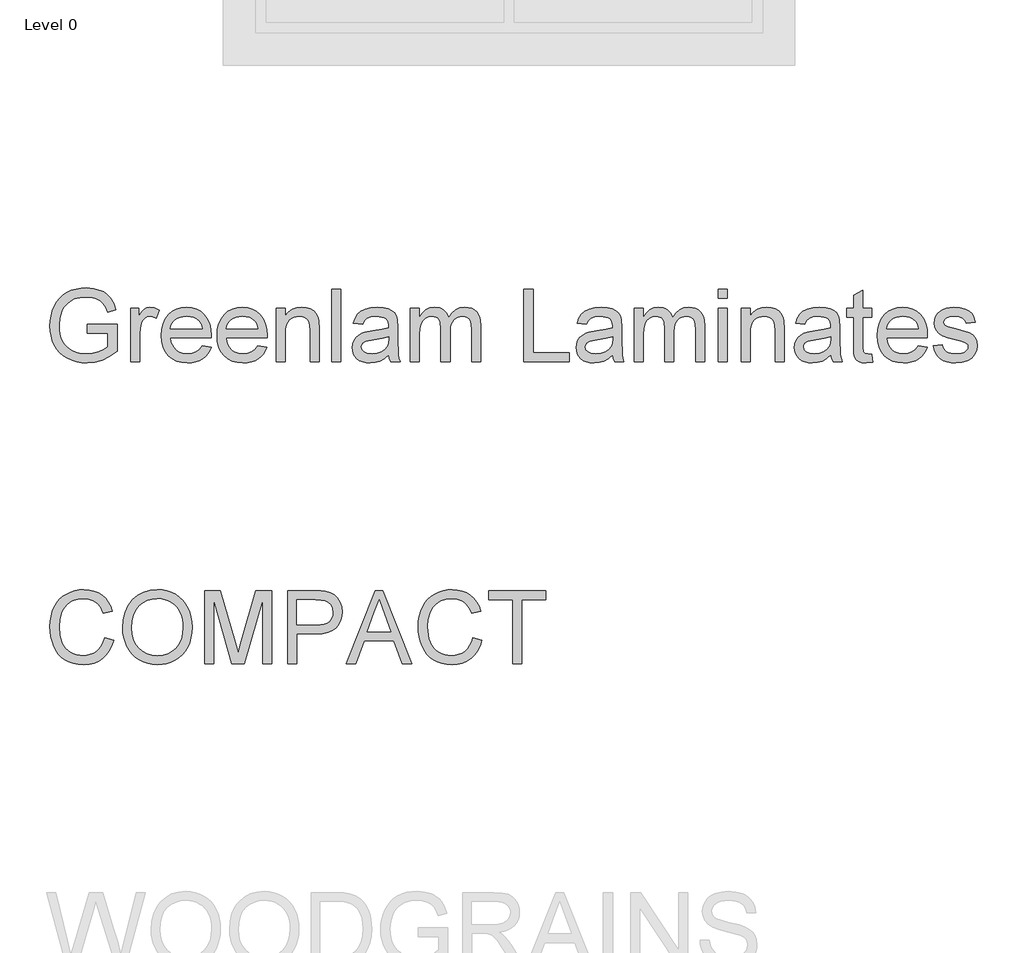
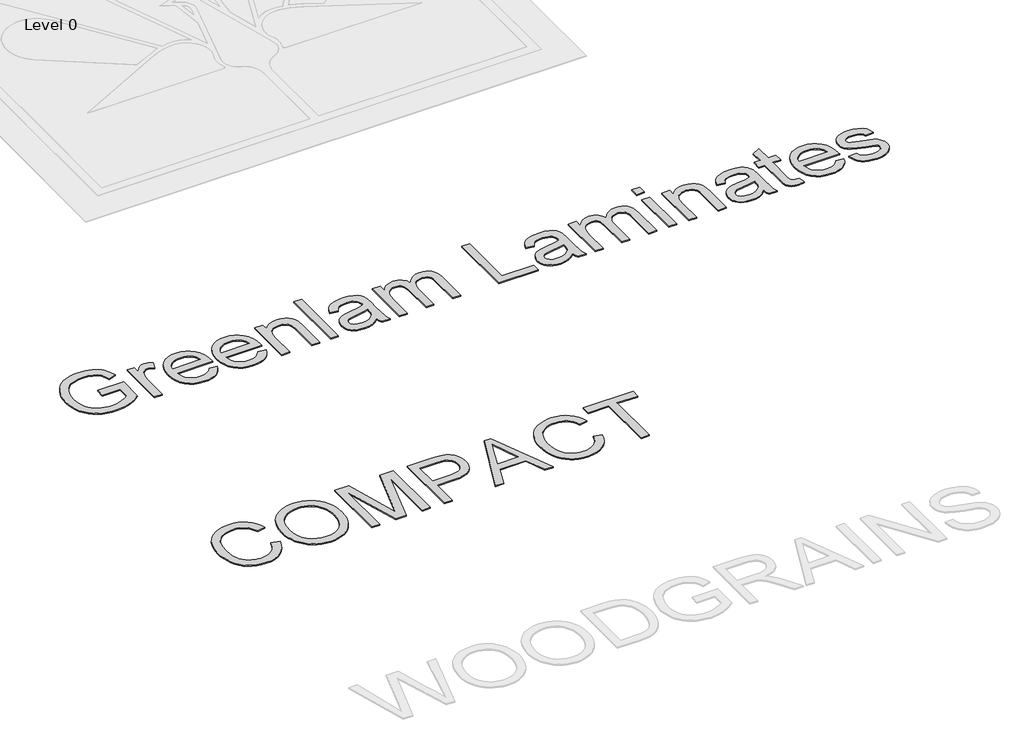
# One storey, part 16 of 16: 2 proxies.
"""IFC4 building model written with IfcOpenShell, lengths in millimetres."""

from ifc_helpers import new_model, si_unit, origin, origin_with_axes, place, context, project, spatial, polyline, outline, extrude, element, save

model = new_model("IFC4")

# Units and contexts
model_context = context("Model", 3, world=origin())
ifc_project = project(units=[si_unit("LENGTHUNIT", "METRE", prefix="MILLI")], contexts=[model_context])

# Site, building, storey
site = spatial("IfcSite", under=ifc_project)
building = spatial("IfcBuilding", under=site)
storey = spatial("IfcBuildingStorey", under=building, Name="Level 0", Elevation=0.0)

# Proxies
placement = place(None, origin())
element("IfcBuildingElementProxy", 1, Name="600mm Arial", ObjectType="600mm Arial", at=placement, inside=storey, context=model_context, shape_type="SweptSolid", body=[
    extrude(outline(polyline([(-10594.9298129, 2995.5724296), (-10594.9298129, 3070.9146622), (-10350.067557, 3070.9146622), (-10350.067557, 2845.6237284), (-10409.5724697, 2804.2370039), (-10470.9535806, 2774.5489269), (-10534.0637368, 2756.6698619), (-10598.7557857, 2750.7101736), (-10642.0325039, 2753.0784139), (-10683.2766741, 2760.183135), (-10722.4882962, 2772.0243367), (-10759.6673704, 2788.6020191), (-10793.6136815, 2809.6678618), (-10823.1270146, 2834.9735446), (-10848.2073696, 2864.5190673), (-10868.8547466, 2898.3044301), (-10884.9817735, 2935.2489794), (-10896.5010785, 2974.2720621), (-10903.4126615, 3015.373678), (-10905.7165225, 3058.5538272), (-10903.4218585, 3101.7385749), (-10896.5378667, 3143.4425975), (-10885.064547, 3183.6658952), (-10869.0018994, 3222.4084678), (-10848.6350324, 3257.9688612), (-10824.2490546, 3288.645621), (-10795.8439661, 3314.4387474), (-10763.4197667, 3335.3482403), (-10727.6800309, 3351.507457), (-10689.3283329, 3363.0497546), (-10648.3646727, 3369.9751331), (-10604.7890504, 3372.2835926), (-10542.7273578, 3366.9309096), (-10486.9196592, 3350.8728605), (-10462.0002525, 3339.1190308), (-10439.9227343, 3325.2682737), (-10420.6871045, 3309.3205892), (-10404.293363, 3291.2759773), (-10377.9346181, 3247.2588966), (-10358.749572, 3191.5799566), (-10428.2056927, 3172.0086345), (-10443.7119188, 3211.7214959), (-10462.5658711, 3241.6854844), (-10487.5082704, 3264.2734389), (-10521.2798375, 3281.8581982), (-10561.5445219, 3293.1705696), (-10605.9662728, 3296.94136), (-10657.9663928, 3292.876264), (-10702.4249319, 3280.6809758), (-10739.1763433, 3261.8822059), (-10768.0550799, 3238.0066644), (-10790.2199701, 3210.2867561), (-10806.8298422, 3179.9548856), (-10824.4881779, 3123.0803291), (-10830.3742899, 3061.6440359), (-10828.6038578, 3024.0235034), (-10823.2925615, 2989.5943472), (-10814.4404009, 2958.3565672), (-10802.0473762, 2930.3101636), (-10786.2744357, 2905.5609024), (-10767.2825277, 2884.2145496), (-10745.0716522, 2866.2711053), (-10719.6418093, 2851.7305695), (-10692.1840169, 2840.496373), (-10663.8892929, 2832.471947), (-10634.7576374, 2827.6572914), (-10604.7890504, 2826.0524062), (-10552.6049894, 2830.8900544), (-10501.7085154, 2845.4029992), (-10457.5074936, 2865.3973856), (-10425.4097896, 2886.679359), (-10425.4097896, 2995.5724296), (-10594.9298129, 2995.5724296)])), origin_with_axes(), (0.0, 0.0, 1.0), 10.0),
    extrude(outline(polyline([(-10237.054208, 2760.1279527), (-10237.054208, 3202.7635693), (-10171.1297545, 3202.7635693), (-10171.1297545, 3137.2805741), (-10146.7759664, 3175.245996), (-10124.3351647, 3197.6132213), (-10101.8207866, 3208.5393166), (-10077.2462693, 3212.1813483), (-10039.7223058, 3206.3688128), (-10001.6097311, 3188.9312062), (-10026.7728596, 3121.3880719), (-10053.2603632, 3132.9763548), (-10079.7478669, 3136.8391157), (-10102.2438509, 3133.1235076), (-10122.3486019, 3121.9766831), (-10138.590592, 3104.244771), (-10149.4982932, 3080.7738997), (-10158.6585549, 3038.6881994), (-10161.7119754, 2992.7765264), (-10161.7119754, 2760.1279527), (-10237.054208, 2760.1279527)])), origin_with_axes(), (0.0, 0.0, 1.0), 10.0),
    extrude(outline(polyline([(-9644.617043, 2891.9768597), (-9570.7463384, 2882.5590807), (-9582.0725053, 2852.9721712), (-9597.3626007, 2826.8985348), (-9616.6166246, 2804.3381714), (-9639.8345771, 2785.2910811), (-9666.7773347, 2770.1619341), (-9697.2057742, 2759.3554005), (-9731.1198956, 2752.8714803), (-9768.519699, 2750.7101736), (-9815.2683035, 2754.4395773), (-9856.9217424, 2765.6277885), (-9893.4800157, 2784.2748071), (-9924.9431233, 2810.3806332), (-9950.2442075, 2843.2186998), (-9968.3164106, 2882.06244), (-9979.1597324, 2926.9118537), (-9982.774173, 2977.766941), (-9979.1229442, 3030.3464752), (-9968.1692578, 3076.6904095), (-9949.9131138, 3116.798744), (-9924.3545121, 3150.6714788), (-9892.9741779, 3177.5820467), (-9857.2528362, 3196.8038809), (-9817.1904869, 3208.3369815), (-9772.7871301, 3212.1813483), (-9729.8139146, 3208.3461785), (-9690.9517803, 3196.8406691), (-9656.2007273, 3177.6648201), (-9625.5607557, 3150.8186315), (-9600.5493785, 3117.0194732), (-9582.6841091, 3076.9847151), (-9571.9649475, 3030.7143572), (-9568.3918936, 2978.2083994), (-9568.833352, 2957.9013133), (-9907.4319404, 2957.9013133), (-9903.0679402, 2927.8361572), (-9894.3905236, 2901.5050034), (-9881.3996907, 2878.9078519), (-9864.0954413, 2860.0447026), (-9843.4342688, 2845.1730729), (-9820.3726662, 2834.5504803), (-9794.9106336, 2828.1769247), (-9767.048171, 2826.0524062), (-9726.9490335, 2829.9887436), (-9693.1774664, 2841.7977556), (-9665.7334695, 2862.2152063), (-9644.617043, 2891.9768597)]), holes=[polyline([(-9907.4319404, 3033.2435459), (-9643.7341262, 3033.2435459), (-9653.9244575, 3073.0483778), (-9662.689246, 3088.7017567), (-9673.9004498, 3101.5224442), (-9694.4466593, 3116.973488), (-9717.82556, 3128.0099478), (-9744.0371522, 3134.6318238), (-9773.0814357, 3136.8391157), (-9799.5735379, 3135.0778807), (-9823.8675452, 3129.7941755), (-9845.9634575, 3120.9880003), (-9865.8612749, 3108.6593549), (-9882.558519, 3093.3784565), (-9895.0527112, 3075.7155222), (-9903.3438517, 3055.670552), (-9907.4319404, 3033.2435459)])]), origin_with_axes(), (0.0, 0.0, 1.0), 10.0),
    extrude(outline(polyline([(-9183.1458683, 2891.9768597), (-9109.2751636, 2882.5590807), (-9120.6013305, 2852.9721712), (-9135.891426, 2826.8985348), (-9155.1454499, 2804.3381714), (-9178.3634023, 2785.2910811), (-9205.3061599, 2770.1619341), (-9235.7345995, 2759.3554005), (-9269.6487209, 2752.8714803), (-9307.0485242, 2750.7101736), (-9353.7971288, 2754.4395773), (-9395.4505677, 2765.6277885), (-9432.0088409, 2784.2748071), (-9463.4719486, 2810.3806332), (-9488.7730328, 2843.2186998), (-9506.8452358, 2882.06244), (-9517.6885576, 2926.9118537), (-9521.3029982, 2977.766941), (-9517.6517694, 3030.3464752), (-9506.698083, 3076.6904095), (-9488.441939, 3116.798744), (-9462.8833374, 3150.6714788), (-9431.5030032, 3177.5820467), (-9395.7816615, 3196.8038809), (-9355.7193122, 3208.3369815), (-9311.3159554, 3212.1813483), (-9268.3427398, 3208.3461785), (-9229.4806055, 3196.8406691), (-9194.7295526, 3177.6648201), (-9164.0895809, 3150.8186315), (-9139.0782038, 3117.0194732), (-9121.2129344, 3076.9847151), (-9110.4937727, 3030.7143572), (-9106.9207189, 2978.2083994), (-9107.3621772, 2957.9013133), (-9445.9607656, 2957.9013133), (-9441.5967654, 2927.8361572), (-9432.9193489, 2901.5050034), (-9419.9285159, 2878.9078519), (-9402.6242666, 2860.0447026), (-9381.963094, 2845.1730729), (-9358.9014915, 2834.5504803), (-9333.4394589, 2828.1769247), (-9305.5769962, 2826.0524062), (-9265.4778588, 2829.9887436), (-9231.7062916, 2841.7977556), (-9204.2622948, 2862.2152063), (-9183.1458683, 2891.9768597)]), holes=[polyline([(-9445.9607656, 3033.2435459), (-9182.2629515, 3033.2435459), (-9192.4532827, 3073.0483778), (-9201.2180713, 3088.7017567), (-9212.4292751, 3101.5224442), (-9232.9754845, 3116.973488), (-9256.3543853, 3128.0099478), (-9282.5659775, 3134.6318238), (-9311.610261, 3136.8391157), (-9338.1023631, 3135.0778807), (-9362.3963704, 3129.7941755), (-9384.4922827, 3120.9880003), (-9404.3901002, 3108.6593549), (-9421.0873442, 3093.3784565), (-9433.5815365, 3075.7155222), (-9441.8726769, 3055.670552), (-9445.9607656, 3033.2435459)])]), origin_with_axes(), (0.0, 0.0, 1.0), 10.0),
    extrude(outline(polyline([(-9031.5784862, 2760.1279527), (-9031.5784862, 3202.7635693), (-8956.2362536, 3202.7635693), (-8956.2362536, 3140.9593941), (-8930.0614497, 3172.1189991), (-8898.6259332, 3194.3758598), (-8861.9297042, 3207.7299762), (-8819.9727626, 3212.1813483), (-8782.8350752, 3208.5944989), (-8748.8243847, 3197.8339505), (-8720.4606829, 3181.2424725), (-8700.2639614, 3160.1628342), (-8686.5603571, 3134.6502179), (-8677.6760069, 3104.7598058), (-8673.7028813, 3031.9191707), (-8673.7028813, 2760.1279527), (-8749.0451139, 2760.1279527), (-8749.0451139, 3021.7656276), (-8751.2156177, 3060.7243309), (-8757.727129, 3088.4258452), (-8769.7384762, 3108.2730788), (-8788.4084874, 3123.6689403), (-8812.3392112, 3133.5465719), (-8840.132696, 3136.8391157), (-8863.0103575, 3134.9905087), (-8884.2601413, 3129.4446876), (-8903.8820472, 3120.2016525), (-8921.8760753, 3107.2614033), (-8936.9086533, 3089.1524121), (-8947.646209, 3064.4031509), (-8954.0887425, 3033.0136196), (-8956.2362536, 2994.9838184), (-8956.2362536, 2760.1279527), (-9031.5784862, 2760.1279527)])), origin_with_axes(), (0.0, 0.0, 1.0), 10.0),
    extrude(outline(polyline([(-8570.1073115, 2760.1279527), (-8570.1073115, 3362.8658136), (-8494.7650789, 3362.8658136), (-8494.7650789, 2760.1279527), (-8570.1073115, 2760.1279527)])), origin_with_axes(), (0.0, 0.0, 1.0), 10.0),
    extrude(outline(polyline([(-8099.2183577, 2816.6346271), (-8135.2156109, 2785.7693277), (-8172.2797219, 2765.5726062), (-8211.2568193, 2754.4257817), (-8252.9930316, 2750.7101736), (-8286.5392711, 2752.9450567), (-8315.9560351, 2759.6497061), (-8341.2433238, 2770.8241217), (-8362.401137, 2786.4683035), (-8379.1075781, 2805.5889702), (-8391.0407503, 2827.1928404), (-8398.2006537, 2851.279914), (-8400.5872881, 2877.8501911), (-8396.9820446, 2909.0833725), (-8386.1663139, 2937.4470743), (-8369.4828654, 2961.727286), (-8348.2744684, 2980.709997), (-8323.3504632, 2995.0573948), (-8295.5201903, 3005.4316671), (-8230.3315007, 3016.7624325), (-8153.297011, 3028.6818092), (-8099.6598161, 3042.661325), (-8099.2183577, 3059.4367439), (-8104.4054938, 3093.0611583), (-8110.889414, 3105.5139638), (-8119.9669022, 3115.0605016), (-8135.6570693, 3124.5886453), (-8154.7685389, 3131.3944622), (-8203.2553859, 3136.8391157), (-8248.1369893, 3133.2154781), (-8279.4805353, 3122.3445651), (-8300.8544792, 3102.2398141), (-8315.8272764, 3070.9146622), (-8391.169509, 3080.3324413), (-8378.0913041, 3121.5352247), (-8358.5751643, 3153.9088403), (-8330.8000736, 3178.6672986), (-8292.9450163, 3197.0246101), (-8246.6470672, 3208.3921638), (-8193.5433012, 3212.1813483), (-8142.610039, 3208.8336222), (-8102.23499, 3198.7904437), (-8071.7927549, 3183.6888878), (-8050.6579343, 3165.1660294), (-8036.6416303, 3142.2653752), (-8027.554945, 3114.030432), (-8023.8761251, 3048.1059785), (-8023.8761251, 2954.3696461), (-8020.0501523, 2823.4772322), (-8014.3847696, 2791.1220108), (-8005.0405669, 2760.1279527), (-8080.3827995, 2760.1279527), (-8092.449329, 2786.3211507), (-8099.2183577, 2816.6346271)]), holes=[polyline([(-8099.2183577, 2967.3190924), (-8149.8389202, 2954.7743163), (-8220.7665689, 2944.2161031), (-8285.5873764, 2932.0024208), (-8302.4547659, 2923.6514995), (-8314.9443596, 2912.1367931), (-8322.6698815, 2898.3412183), (-8325.2450555, 2883.1476919), (-8319.6348551, 2860.7436784), (-8302.8042538, 2842.3863668), (-8275.1211337, 2830.1358964), (-8236.9533767, 2826.0524062), (-8196.4863572, 2830.5589606), (-8160.7282273, 2844.078624), (-8131.739126, 2863.999434), (-8111.5791927, 2887.7094286), (-8102.6396602, 2912.1367931), (-8099.6598161, 2945.9819366), (-8099.2183577, 2967.3190924)])]), origin_with_axes(), (0.0, 0.0, 1.0), 10.0),
    extrude(outline(polyline([(-7920.2805552, 2760.1279527), (-7920.2805552, 3202.7635693), (-7844.9383226, 3202.7635693), (-7844.9383226, 3129.9229342), (-7822.2767917, 3163.3818017), (-7793.1405377, 3189.5933938), (-7758.5228419, 3206.5343597), (-7719.4169858, 3212.1813483), (-7677.5152266, 3206.4239951), (-7659.6821469, 3199.2273036), (-7643.9276004, 3189.1519354), (-7618.8380484, 3161.5056035), (-7602.4305114, 3124.6254335), (-7574.9681204, 3162.9311462), (-7543.6429685, 3190.2923696), (-7508.4550557, 3206.7091037), (-7469.4043819, 3212.1813483), (-7439.2426568, 3209.9050785), (-7412.7689488, 3203.076269), (-7389.9832577, 3191.6949197), (-7370.8855836, 3175.7610308), (-7355.7886262, 3155.0906612), (-7345.0050853, 3129.4998699), (-7338.5349607, 3098.988657), (-7336.3782525, 3063.5570223), (-7336.3782525, 2760.1279527), (-7411.7204851, 2760.1279527), (-7411.7204851, 3031.1834067), (-7413.4679246, 3068.7625525), (-7418.710243, 3094.0912279), (-7428.5326923, 3111.436864), (-7444.0205243, 3125.0668919), (-7463.9413343, 3133.8960598), (-7487.0627177, 3136.8391157), (-7508.413669, 3134.9537205), (-7527.8792251, 3129.2975348), (-7545.4593859, 3119.8705587), (-7561.1541515, 3106.6727921), (-7574.062211, 3089.317959), (-7583.2822535, 3067.4197832), (-7588.814279, 3040.9782648), (-7590.6582875, 3009.9934038), (-7590.6582875, 2760.1279527), (-7666.0005201, 2760.1279527), (-7666.0005201, 3039.5711162), (-7670.3599218, 3082.1718512), (-7675.8091738, 3098.8920879), (-7683.4381267, 3112.5589041), (-7693.5502831, 3123.1814967), (-7706.4491455, 3130.7690628), (-7722.1347141, 3135.3216025), (-7740.6069888, 3136.8391157), (-7769.6328782, 3132.7924138), (-7796.3778992, 3120.6523079), (-7818.4508189, 3100.7131038), (-7833.4604044, 3073.269107), (-7842.068843, 3035.1933205), (-7844.9383226, 2983.3587473), (-7844.9383226, 2760.1279527), (-7920.2805552, 2760.1279527)])), origin_with_axes(), (0.0, 0.0, 1.0), 10.0),
    extrude(outline(polyline([(-6978.5026476, 2760.1279527), (-6978.5026476, 3362.8658136), (-6903.1604149, 3362.8658136), (-6903.1604149, 2835.4701853), (-6601.7914845, 2835.4701853), (-6601.7914845, 2760.1279527), (-6978.5026476, 2760.1279527)])), origin_with_axes(), (0.0, 0.0, 1.0), 10.0),
    extrude(outline(polyline([(-6243.9158796, 2816.6346271), (-6279.9131328, 2785.7693277), (-6316.9772438, 2765.5726062), (-6355.9543412, 2754.4257817), (-6397.6905536, 2750.7101736), (-6431.236793, 2752.9450567), (-6460.653557, 2759.6497061), (-6485.9408457, 2770.8241217), (-6507.0986589, 2786.4683035), (-6523.8051, 2805.5889702), (-6535.7382723, 2827.1928404), (-6542.8981756, 2851.279914), (-6545.28481, 2877.8501911), (-6541.6795665, 2909.0833725), (-6530.8638358, 2937.4470743), (-6514.1803873, 2961.727286), (-6492.9719903, 2980.709997), (-6468.0479852, 2995.0573948), (-6440.2177122, 3005.4316671), (-6375.0290227, 3016.7624325), (-6297.9945329, 3028.6818092), (-6244.357338, 3042.661325), (-6243.9158796, 3059.4367439), (-6249.1030157, 3093.0611583), (-6255.5869359, 3105.5139638), (-6264.6644241, 3115.0605016), (-6280.3545912, 3124.5886453), (-6299.4660609, 3131.3944622), (-6347.9529078, 3136.8391157), (-6392.8345112, 3133.2154781), (-6424.1780572, 3122.3445651), (-6445.5520011, 3102.2398141), (-6460.5247984, 3070.9146622), (-6535.867031, 3080.3324413), (-6522.788826, 3121.5352247), (-6503.2726862, 3153.9088403), (-6475.4975956, 3178.6672986), (-6437.6425383, 3197.0246101), (-6391.3445892, 3208.3921638), (-6338.2408232, 3212.1813483), (-6287.3075609, 3208.8336222), (-6246.932512, 3198.7904437), (-6216.4902768, 3183.6888878), (-6195.3554562, 3165.1660294), (-6181.3391522, 3142.2653752), (-6172.2524669, 3114.030432), (-6168.573647, 3048.1059785), (-6168.573647, 2954.3696461), (-6164.7476742, 2823.4772322), (-6159.0822915, 2791.1220108), (-6149.7380888, 2760.1279527), (-6225.0803214, 2760.1279527), (-6237.1468509, 2786.3211507), (-6243.9158796, 2816.6346271)]), holes=[polyline([(-6243.9158796, 2967.3190924), (-6294.5364421, 2954.7743163), (-6365.4640908, 2944.2161031), (-6430.2848983, 2932.0024208), (-6447.1522878, 2923.6514995), (-6459.6418816, 2912.1367931), (-6467.3674035, 2898.3412183), (-6469.9425774, 2883.1476919), (-6464.332377, 2860.7436784), (-6447.5017757, 2842.3863668), (-6419.8186556, 2830.1358964), (-6381.6508986, 2826.0524062), (-6341.1838791, 2830.5589606), (-6305.4257492, 2844.078624), (-6276.436648, 2863.999434), (-6256.2767146, 2887.7094286), (-6247.3371821, 2912.1367931), (-6244.357338, 2945.9819366), (-6243.9158796, 2967.3190924)])]), origin_with_axes(), (0.0, 0.0, 1.0), 10.0),
    extrude(outline(polyline([(-6064.9780771, 2760.1279527), (-6064.9780771, 3202.7635693), (-5989.6358445, 3202.7635693), (-5989.6358445, 3129.9229342), (-5966.9743136, 3163.3818017), (-5937.8380596, 3189.5933938), (-5903.2203639, 3206.5343597), (-5864.1145078, 3212.1813483), (-5822.2127485, 3206.4239951), (-5804.3796688, 3199.2273036), (-5788.6251224, 3189.1519354), (-5763.5355703, 3161.5056035), (-5747.1280333, 3124.6254335), (-5719.6656424, 3162.9311462), (-5688.3404905, 3190.2923696), (-5653.1525776, 3206.7091037), (-5614.1019038, 3212.1813483), (-5583.9401788, 3209.9050785), (-5557.4664707, 3203.076269), (-5534.6807796, 3191.6949197), (-5515.5831055, 3175.7610308), (-5500.4861482, 3155.0906612), (-5489.7026072, 3129.4998699), (-5483.2324826, 3098.988657), (-5481.0757744, 3063.5570223), (-5481.0757744, 2760.1279527), (-5556.418007, 2760.1279527), (-5556.418007, 3031.1834067), (-5558.1654465, 3068.7625525), (-5563.4077649, 3094.0912279), (-5573.2302142, 3111.436864), (-5588.7180462, 3125.0668919), (-5608.6388562, 3133.8960598), (-5631.7602396, 3136.8391157), (-5653.1111909, 3134.9537205), (-5672.576747, 3129.2975348), (-5690.1569078, 3119.8705587), (-5705.8516734, 3106.6727921), (-5718.759733, 3089.317959), (-5727.9797755, 3067.4197832), (-5733.511801, 3040.9782648), (-5735.3558095, 3009.9934038), (-5735.3558095, 2760.1279527), (-5810.6980421, 2760.1279527), (-5810.6980421, 3039.5711162), (-5815.0574437, 3082.1718512), (-5820.5066958, 3098.8920879), (-5828.1356486, 3112.5589041), (-5838.247805, 3123.1814967), (-5851.1466674, 3130.7690628), (-5866.832236, 3135.3216025), (-5885.3045107, 3136.8391157), (-5914.3304001, 3132.7924138), (-5941.0754212, 3120.6523079), (-5963.1483409, 3100.7131038), (-5978.1579263, 3073.269107), (-5986.766365, 3035.1933205), (-5989.6358445, 2983.3587473), (-5989.6358445, 2760.1279527), (-6064.9780771, 2760.1279527)])), origin_with_axes(), (0.0, 0.0, 1.0), 10.0),
    extrude(outline(polyline([(-5368.0624255, 3287.523581), (-5368.0624255, 3362.8658136), (-5292.7201929, 3362.8658136), (-5292.7201929, 3287.523581), (-5368.0624255, 3287.523581)])), origin_with_axes(), (0.0, 0.0, 1.0), 10.0),
    extrude(outline(polyline([(-5368.0624255, 2760.1279527), (-5368.0624255, 3202.7635693), (-5292.7201929, 3202.7635693), (-5292.7201929, 2760.1279527), (-5368.0624255, 2760.1279527)])), origin_with_axes(), (0.0, 0.0, 1.0), 10.0),
    extrude(outline(polyline([(-5179.7068439, 2760.1279527), (-5179.7068439, 3202.7635693), (-5104.3646113, 3202.7635693), (-5104.3646113, 3140.9593941), (-5078.1898074, 3172.1189991), (-5046.7542909, 3194.3758598), (-5010.0580619, 3207.7299762), (-4968.1011203, 3212.1813483), (-4930.9634329, 3208.5944989), (-4896.9527424, 3197.8339505), (-4868.5890406, 3181.2424725), (-4848.3923191, 3160.1628342), (-4834.6887148, 3134.6502179), (-4825.8043646, 3104.7598058), (-4821.831239, 3031.9191707), (-4821.831239, 2760.1279527), (-4897.1734716, 2760.1279527), (-4897.1734716, 3021.7656276), (-4899.3439754, 3060.7243309), (-4905.8554867, 3088.4258452), (-4917.8668339, 3108.2730788), (-4936.5368451, 3123.6689403), (-4960.4675689, 3133.5465719), (-4988.2610537, 3136.8391157), (-5011.1387152, 3134.9905087), (-5032.388499, 3129.4446876), (-5052.0104049, 3120.2016525), (-5070.004433, 3107.2614033), (-5085.037011, 3089.1524121), (-5095.7745667, 3064.4031509), (-5102.2171002, 3033.0136196), (-5104.3646113, 2994.9838184), (-5104.3646113, 2760.1279527), (-5179.7068439, 2760.1279527)])), origin_with_axes(), (0.0, 0.0, 1.0), 10.0),
    extrude(outline(polyline([(-4435.7022969, 2816.6346271), (-4471.6995501, 2785.7693277), (-4508.7636611, 2765.5726062), (-4547.7407585, 2754.4257817), (-4589.4769709, 2750.7101736), (-4623.0232103, 2752.9450567), (-4652.4399744, 2759.6497061), (-4677.727263, 2770.8241217), (-4698.8850762, 2786.4683035), (-4715.5915174, 2805.5889702), (-4727.5246896, 2827.1928404), (-4734.6845929, 2851.279914), (-4737.0712273, 2877.8501911), (-4733.4659838, 2909.0833725), (-4722.6502531, 2937.4470743), (-4705.9668047, 2961.727286), (-4684.7584076, 2980.709997), (-4659.8344025, 2995.0573948), (-4632.0041295, 3005.4316671), (-4566.81544, 3016.7624325), (-4489.7809502, 3028.6818092), (-4436.1437553, 3042.661325), (-4435.7022969, 3059.4367439), (-4440.889433, 3093.0611583), (-4447.3733532, 3105.5139638), (-4456.4508414, 3115.0605016), (-4472.1410085, 3124.5886453), (-4491.2524782, 3131.3944622), (-4539.7393251, 3136.8391157), (-4584.6209285, 3133.2154781), (-4615.9644745, 3122.3445651), (-4637.3384185, 3102.2398141), (-4652.3112157, 3070.9146622), (-4727.6534483, 3080.3324413), (-4714.5752433, 3121.5352247), (-4695.0591035, 3153.9088403), (-4667.2840129, 3178.6672986), (-4629.4289556, 3197.0246101), (-4583.1310065, 3208.3921638), (-4530.0272405, 3212.1813483), (-4479.0939782, 3208.8336222), (-4438.7189293, 3198.7904437), (-4408.2766942, 3183.6888878), (-4387.1418735, 3165.1660294), (-4373.1255695, 3142.2653752), (-4364.0388842, 3114.030432), (-4360.3600643, 3048.1059785), (-4360.3600643, 2954.3696461), (-4356.5340915, 2823.4772322), (-4350.8687088, 2791.1220108), (-4341.5245061, 2760.1279527), (-4416.8667387, 2760.1279527), (-4428.9332682, 2786.3211507), (-4435.7022969, 2816.6346271)]), holes=[polyline([(-4435.7022969, 2967.3190924), (-4486.3228594, 2954.7743163), (-4557.2505081, 2944.2161031), (-4622.0713157, 2932.0024208), (-4638.9387051, 2923.6514995), (-4651.4282989, 2912.1367931), (-4659.1538208, 2898.3412183), (-4661.7289947, 2883.1476919), (-4656.1187943, 2860.7436784), (-4639.288193, 2842.3863668), (-4611.6050729, 2830.1358964), (-4573.4373159, 2826.0524062), (-4532.9702964, 2830.5589606), (-4497.2121665, 2844.078624), (-4468.2230653, 2863.999434), (-4448.0631319, 2887.7094286), (-4439.1235995, 2912.1367931), (-4436.1437553, 2945.9819366), (-4435.7022969, 2967.3190924)])]), origin_with_axes(), (0.0, 0.0, 1.0), 10.0),
    extrude(outline(polyline([(-4096.6622501, 2822.9621974), (-4087.2444711, 2757.9206607), (-4143.6039927, 2750.7101736), (-4179.7667929, 2753.8371706), (-4206.7325431, 2763.2181614), (-4225.7888304, 2777.6759238), (-4238.2232419, 2796.0332354), (-4245.065847, 2827.5607224), (-4247.3467154, 2881.5290111), (-4247.3467154, 3127.4213367), (-4303.8533898, 3127.4213367), (-4303.8533898, 3202.7635693), (-4247.3467154, 3202.7635693), (-4247.3467154, 3310.3322647), (-4172.0044828, 3354.6252569), (-4172.0044828, 3202.7635693), (-4096.6622501, 3202.7635693), (-4096.6622501, 3127.4213367), (-4172.0044828, 3127.4213367), (-4172.0044828, 2883.7363031), (-4168.0313572, 2844.8879644), (-4155.1554874, 2831.1291777), (-4144.2845744, 2827.3215991), (-4129.4773241, 2826.0524062), (-4096.6622501, 2822.9621974)])), origin_with_axes(), (0.0, 0.0, 1.0), 10.0),
    extrude(outline(polyline([(-3711.4162248, 2891.9768597), (-3637.5455202, 2882.5590807), (-3648.8716871, 2852.9721712), (-3664.1617825, 2826.8985348), (-3683.4158064, 2804.3381714), (-3706.6337589, 2785.2910811), (-3733.5765165, 2770.1619341), (-3764.004956, 2759.3554005), (-3797.9190774, 2752.8714803), (-3835.3188808, 2750.7101736), (-3882.0674853, 2754.4395773), (-3923.7209242, 2765.6277885), (-3960.2791975, 2784.2748071), (-3991.7423051, 2810.3806332), (-4017.0433893, 2843.2186998), (-4035.1155923, 2882.06244), (-4045.9589142, 2926.9118537), (-4049.5733548, 2977.766941), (-4045.922126, 3030.3464752), (-4034.9684396, 3076.6904095), (-4016.7122955, 3116.798744), (-3991.1536939, 3150.6714788), (-3959.7733597, 3177.5820467), (-3924.052018, 3196.8038809), (-3883.9896687, 3208.3369815), (-3839.5863119, 3212.1813483), (-3796.6130964, 3208.3461785), (-3757.7509621, 3196.8406691), (-3722.9999091, 3177.6648201), (-3692.3599374, 3150.8186315), (-3667.3485603, 3117.0194732), (-3649.4832909, 3076.9847151), (-3638.7641293, 3030.7143572), (-3635.1910754, 2978.2083994), (-3635.6325338, 2957.9013133), (-3974.2311221, 2957.9013133), (-3969.867122, 2927.8361572), (-3961.1897054, 2901.5050034), (-3948.1988725, 2878.9078519), (-3930.8946231, 2860.0447026), (-3910.2334506, 2845.1730729), (-3887.171848, 2834.5504803), (-3861.7098154, 2828.1769247), (-3833.8473528, 2826.0524062), (-3793.7482153, 2829.9887436), (-3759.9766482, 2841.7977556), (-3732.5326513, 2862.2152063), (-3711.4162248, 2891.9768597)]), holes=[polyline([(-3974.2311221, 3033.2435459), (-3710.533308, 3033.2435459), (-3720.7236393, 3073.0483778), (-3729.4884278, 3088.7017567), (-3740.6996316, 3101.5224442), (-3761.245841, 3116.973488), (-3784.6247418, 3128.0099478), (-3810.836334, 3134.6318238), (-3839.8806175, 3136.8391157), (-3866.3727197, 3135.0778807), (-3890.6667269, 3129.7941755), (-3912.7626393, 3120.9880003), (-3932.6604567, 3108.6593549), (-3949.3577007, 3093.3784565), (-3961.851893, 3075.7155222), (-3970.1430335, 3055.670552), (-3974.2311221, 3033.2435459)])]), origin_with_axes(), (0.0, 0.0, 1.0), 10.0),
    extrude(outline(polyline([(-3588.10218, 2891.9768597), (-3512.7599474, 2901.3946388), (-3508.2074077, 2884.2145496), (-3500.877359, 2869.168176), (-3490.7698011, 2856.255518), (-3477.8847343, 2845.4765756), (-3462.1853701, 2836.9785015), (-3443.6349205, 2830.9084485), (-3397.9807649, 2826.0524062), (-3352.8784323, 2830.5037783), (-3335.3488552, 2836.0679935), (-3321.1670043, 2843.8578948), (-3302.4050226, 2863.2084877), (-3297.7145271, 2874.0426125), (-3296.1510286, 2885.6492894), (-3297.7237242, 2895.8212266), (-3302.4418108, 2904.8527296), (-3321.3141571, 2919.494433), (-3349.5307061, 2929.0593649), (-3398.8636817, 2940.9787415), (-3467.6208266, 2960.8627633), (-3512.318489, 2977.8405174), (-3541.0316787, 2996.3633759), (-3561.8354056, 3020.8827109), (-3574.4721521, 3049.8350239), (-3578.6844009, 3081.6568165), (-3575.2998866, 3110.8482528), (-3565.1463435, 3137.7956089), (-3549.1434767, 3161.4320271), (-3528.2109912, 3180.6906496), (-3507.4072644, 3192.8123613), (-3480.3127554, 3202.9842985), (-3448.9876035, 3209.8820859), (-3415.4919479, 3212.1813483), (-3366.4532779, 3208.4841343), (-3323.8157547, 3197.3924921), (-3289.5291527, 3179.9916738), (-3265.5432466, 3157.3669311), (-3249.6507444, 3127.844401), (-3239.6443542, 3089.7502203), (-3314.9865868, 3080.3324413), (-3324.4963364, 3104.0424359), (-3343.3135004, 3121.9031067), (-3371.6220199, 3133.1051135), (-3409.605836, 3136.8391157), (-3452.8687586, 3133.2706604), (-3481.710707, 3122.5652943), (-3497.934303, 3107.1142505), (-3503.3421683, 3089.308762), (-3501.0980882, 3077.7204791), (-3494.3658476, 3067.382995), (-3482.8511412, 3058.149157), (-3466.2596632, 3050.7547289), (-3401.3652793, 3034.7150739), (-3290.7799515, 2999.2512495), (-3261.5701211, 2982.2918896), (-3239.423625, 2959.0785357), (-3225.4625033, 2929.5376115), (-3220.808796, 2893.5955405), (-3226.2718437, 2856.439459), (-3242.6609865, 2821.4906695), (-3269.3508253, 2791.4898928), (-3305.7159605, 2769.1778498), (-3349.6410707, 2755.3270926), (-3399.0108345, 2750.7101736), (-3439.5606274, 2752.9358597), (-3474.9784665, 2759.6129179), (-3505.2643517, 2770.7413482), (-3530.4182832, 2786.3211507), (-3550.9644926, 2806.278749), (-3567.4272119, 2830.5405665), (-3579.806441, 2859.1066035), (-3588.10218, 2891.9768597)])), origin_with_axes(), (0.0, 0.0, 1.0), 10.0),
])
element("IfcBuildingElementProxy", 2, Name="600mm Arial", ObjectType="600mm Arial", at=placement, inside=storey, context=model_context, shape_type="SweptSolid", body=[
    extrude(outline(polyline([(-10453.6631268, 474.3824267), (-10378.3208942, 454.9582573), (-10393.229312, 408.1038867), (-10413.0857427, 367.1632192), (-10437.8901863, 332.1362547), (-10467.6426426, 303.0229933), (-10501.6717272, 280.1361347), (-10539.3060553, 263.7883785), (-10580.5456269, 253.9797248), (-10625.3904421, 250.7101736), (-10671.3343048, 253.18418), (-10712.7808101, 260.6061993), (-10749.729958, 272.9762314), (-10782.1817485, 290.2942763), (-10810.5822385, 312.3028166), (-10835.377485, 338.744335), (-10856.5674879, 369.6188315), (-10874.1522473, 404.926306), (-10887.9616177, 443.1400482), (-10897.8254537, 482.733348), (-10903.7437553, 523.7062052), (-10905.7165225, 566.0586199), (-10903.4862379, 611.5012433), (-10896.7953841, 653.9456285), (-10885.6439611, 693.3917754), (-10870.0319689, 729.8396841), (-10850.3088955, 762.6869478), (-10826.8242286, 791.3311596), (-10799.5779683, 815.7723197), (-10768.5701147, 836.0104279), (-10734.8537298, 851.8799375), (-10699.481876, 863.2153015), (-10662.4545532, 870.0165199), (-10623.7717614, 872.2835926), (-10580.6789842, 869.3497337), (-10541.1638594, 860.548157), (-10505.2263869, 845.8788624), (-10472.8665669, 825.3418501), (-10444.6178282, 799.4797458), (-10421.0135997, 768.8351756), (-10402.0538814, 733.4081395), (-10387.7386733, 693.1986374), (-10463.0809059, 675.245996), (-10474.9451002, 704.8742922), (-10489.2005275, 730.189172), (-10505.8471878, 751.1906354), (-10524.8850811, 767.8786824), (-10546.4245719, 780.5936039), (-10570.5760249, 789.6756906), (-10597.33944, 795.1249427), (-10626.7148173, 796.94136), (-10660.5139756, 794.9272061), (-10691.4252603, 788.8847443), (-10719.4486713, 778.8139747), (-10744.5842086, 764.7148973), (-10766.514574, 747.2221084), (-10784.9224694, 726.9702046), (-10799.8078946, 703.9591858), (-10811.1708497, 678.189052), (-10825.5734298, 623.0435409), (-10830.3742899, 566.2057727), (-10824.690513, 496.6024992), (-10817.585792, 465.3325296), (-10807.6391826, 436.4170048), (-10794.6897363, 410.4307403), (-10778.5765049, 387.9485519), (-10759.2994884, 368.9704395), (-10736.8586867, 353.496403), (-10712.3439502, 341.4896544), (-10686.8451294, 332.9134054), (-10660.3622243, 327.767656), (-10632.8952348, 326.0524062), (-10600.1399417, 328.3884569), (-10570.0058078, 335.3966089), (-10542.4928331, 347.0768622), (-10517.6010176, 363.4292169), (-10495.9189725, 384.3800965), (-10478.035309, 409.8559247), (-10463.9500271, 439.8567014), (-10453.6631268, 474.3824267)])), origin_with_axes(), (0.0, 0.0, 1.0), 10.0),
    extrude(outline(polyline([(-10302.9786616, 553.550632), (-10297.9570723, 624.2483544), (-10282.8923046, 686.8342789), (-10257.7843585, 741.3084053), (-10241.4641935, 765.5035443), (-10222.6332338, 787.6707338), (-10179.5450551, 824.6888595), (-10130.6259468, 851.1303779), (-10075.8759089, 866.995289), (-10015.2949413, 872.2835926), (-9974.7451484, 869.8003892), (-9936.2371006, 862.3507788), (-9899.7707978, 849.9347614), (-9865.3462401, 832.5523372), (-9833.9291177, 810.7277378), (-9806.4851209, 784.9851952), (-9783.0142496, 755.3247093), (-9763.5165038, 721.7462802), (-9748.1942187, 685.013263), (-9737.2497294, 645.8890128), (-9730.6830358, 604.3735297), (-9728.4941379, 560.4668135), (-9730.7979989, 515.9806833), (-9737.7095819, 473.9041801), (-9749.2288869, 434.2373039), (-9765.3559138, 396.9800549), (-9785.7089852, 363.1165172), (-9809.9064234, 333.6307753), (-9837.9482285, 308.5228291), (-9869.8344005, 287.7926787), (-9904.3095419, 271.5690827), (-9940.1182556, 259.9807999), (-9977.2605416, 253.0278302), (-10015.7363997, 250.7101736), (-10056.9943655, 253.271552), (-10096.0082511, 260.9556872), (-10132.7780565, 273.7625791), (-10167.3037818, 291.6922279), (-10198.6841159, 314.0502561), (-10226.0177482, 340.1422866), (-10249.3046785, 369.9683194), (-10268.5449068, 403.5283544), (-10283.6096745, 439.4750238), (-10294.3702229, 476.4609599), (-10300.8265519, 514.4861627), (-10302.9786616, 553.550632)]), holes=[polyline([(-10227.636429, 552.814868), (-10223.870237, 502.8656901), (-10212.5716613, 458.5267127), (-10193.7407016, 419.7979356), (-10167.3773582, 386.679359), (-10135.3302378, 360.1550672), (-10099.4479477, 341.2091444), (-10059.7304878, 329.8415908), (-10016.1778581, 326.0524062), (-9971.8802674, 329.878379), (-9931.6937579, 341.3562972), (-9895.6183298, 360.486161), (-9863.6539829, 387.2679702), (-9837.4837775, 421.0855226), (-9818.7907736, 461.3226158), (-9807.5749713, 507.9792499), (-9803.8363705, 561.0554247), (-9805.4366572, 595.5351647), (-9810.2375172, 627.7524305), (-9818.2389506, 657.7072219), (-9829.4409574, 685.3995391), (-9843.7193773, 710.4660985), (-9860.9500503, 732.5436168), (-9881.1329762, 751.6320938), (-9904.2681552, 767.7315296), (-9929.6382173, 780.5108304), (-9956.5257926, 789.6389024), (-9984.9308812, 795.1157456), (-10014.853483, 796.94136), (-10056.8931979, 793.4234885), (-10095.8978865, 782.8698737), (-10131.8675486, 765.2805158), (-10164.8021842, 740.6554148), (-10192.2921663, 707.8081511), (-10211.9278678, 665.5523055), (-10223.7092887, 613.8878778), (-10227.636429, 552.814868)])]), origin_with_axes(), (0.0, 0.0, 1.0), 10.0),
    extrude(outline(polyline([(-9624.8985681, 260.1279527), (-9624.8985681, 862.8658136), (-9495.256953, 862.8658136), (-9371.9429082, 438.0356855), (-9347.0740853, 349.3025483), (-9320.1451233, 445.3933254), (-9198.8912176, 862.8658136), (-9069.2496025, 862.8658136), (-9069.2496025, 260.1279527), (-9144.5918352, 260.1279527), (-9144.5918352, 787.523581), (-9296.0120644, 260.1279527), (-9398.1361062, 260.1279527), (-9549.5563355, 787.523581), (-9549.5563355, 260.1279527), (-9624.8985681, 260.1279527)])), origin_with_axes(), (0.0, 0.0, 1.0), 10.0),
    extrude(outline(polyline([(-8937.4006955, 260.1279527), (-8937.4006955, 862.8658136), (-8714.022748, 862.8658136), (-8662.0042339, 861.4310738), (-8623.9652356, 857.1268544), (-8583.8109158, 846.4030943), (-8550.7567185, 828.9470936), (-8524.1404562, 803.9679061), (-8503.2999412, 770.6745856), (-8489.8354601, 731.4031826), (-8485.3472998, 688.4897479), (-8488.3777277, 651.4900162), (-8497.4690115, 617.4517346), (-8512.6211512, 586.374903), (-8533.8341468, 558.2595216), (-8562.9566052, 534.9541972), (-8601.8371336, 518.3075369), (-8650.4757319, 508.3195407), (-8708.8724001, 504.9902087), (-8862.0584629, 504.9902087), (-8862.0584629, 260.1279527), (-8937.4006955, 260.1279527)]), holes=[polyline([(-8862.0584629, 580.3324413), (-8704.4578161, 580.3324413), (-8668.2214396, 582.0614867), (-8637.6504458, 587.2486228), (-8612.7448347, 595.8938497), (-8593.5046064, 607.9971673), (-8579.1480115, 623.236679), (-8568.8933009, 641.2904879), (-8562.7404745, 662.1585941), (-8560.6895324, 685.8409975), (-8565.5271807, 719.686141), (-8580.0401254, 748.2337839), (-8602.4257448, 769.7180924), (-8630.8814171, 782.373233), (-8659.9440947, 786.235994), (-8706.2236497, 787.523581), (-8862.0584629, 787.523581), (-8862.0584629, 580.3324413)])]), origin_with_axes(), (0.0, 0.0, 1.0), 10.0),
    extrude(outline(polyline([(-8451.9436146, 260.1279527), (-8211.3487898, 862.8658136), (-8147.1901698, 862.8658136), (-7906.595345, 260.1279527), (-7986.2050087, 260.1279527), (-8055.219671, 448.4835342), (-8303.4664414, 448.4835342), (-8372.3339509, 260.1279527), (-8451.9436146, 260.1279527)]), holes=[polyline([(-8275.8017154, 523.8257668), (-8082.7372443, 523.8257668), (-8137.0366268, 672.0086345), (-8179.2694798, 787.523581), (-8216.7934433, 684.9580807), (-8275.8017154, 523.8257668)])]), origin_with_axes(), (0.0, 0.0, 1.0), 10.0),
    extrude(outline(polyline([(-7402.302706, 474.3824267), (-7326.9604734, 454.9582573), (-7341.8688912, 408.1038867), (-7361.7253219, 367.1632192), (-7386.5297655, 332.1362547), (-7416.2822218, 303.0229933), (-7450.3113064, 280.1361347), (-7487.9456345, 263.7883785), (-7529.1852061, 253.9797248), (-7574.0300214, 250.7101736), (-7619.973884, 253.18418), (-7661.4203893, 260.6061993), (-7698.3695372, 272.9762314), (-7730.8213277, 290.2942763), (-7759.2218177, 312.3028166), (-7784.0170642, 338.744335), (-7805.2070671, 369.6188315), (-7822.7918265, 404.926306), (-7836.6011969, 443.1400482), (-7846.4650329, 482.733348), (-7852.3833345, 523.7062052), (-7854.3561017, 566.0586199), (-7852.1258171, 611.5012433), (-7845.4349633, 653.9456285), (-7834.2835403, 693.3917754), (-7818.6715481, 729.8396841), (-7798.9484747, 762.6869478), (-7775.4638078, 791.3311596), (-7748.2175475, 815.7723197), (-7717.2096939, 836.0104279), (-7683.493309, 851.8799375), (-7648.1214552, 863.2153015), (-7611.0941324, 870.0165199), (-7572.4113406, 872.2835926), (-7529.3185634, 869.3497337), (-7489.8034386, 860.548157), (-7453.8659662, 845.8788624), (-7421.5061462, 825.3418501), (-7393.2574074, 799.4797458), (-7369.6531789, 768.8351756), (-7350.6934606, 733.4081395), (-7336.3782525, 693.1986374), (-7411.7204851, 675.245996), (-7423.5846794, 704.8742922), (-7437.8401067, 730.189172), (-7454.486767, 751.1906354), (-7473.5246603, 767.8786824), (-7495.0641511, 780.5936039), (-7519.2156041, 789.6756906), (-7545.9790192, 795.1249427), (-7575.3543965, 796.94136), (-7609.1535548, 794.9272061), (-7640.0648395, 788.8847443), (-7668.0882505, 778.8139747), (-7693.2237878, 764.7148973), (-7715.1541532, 747.2221084), (-7733.5620486, 726.9702046), (-7748.4474738, 703.9591858), (-7759.8104289, 678.189052), (-7774.213009, 623.0435409), (-7779.0138691, 566.2057727), (-7773.3300922, 496.6024992), (-7766.2253712, 465.3325296), (-7756.2787618, 436.4170048), (-7743.3293155, 410.4307403), (-7727.2160841, 387.9485519), (-7707.9390676, 368.9704395), (-7685.4982659, 353.496403), (-7660.9835294, 341.4896544), (-7635.4847086, 332.9134054), (-7609.0018035, 327.767656), (-7581.5348141, 326.0524062), (-7548.7795209, 328.3884569), (-7518.645387, 335.3966089), (-7491.1324123, 347.0768622), (-7466.2405968, 363.4292169), (-7444.5585517, 384.3800965), (-7426.6748882, 409.8559247), (-7412.5896063, 439.8567014), (-7402.302706, 474.3824267)])), origin_with_axes(), (0.0, 0.0, 1.0), 10.0),
    extrude(outline(polyline([(-7072.6804383, 260.1279527), (-7072.6804383, 787.523581), (-7270.4537989, 787.523581), (-7270.4537989, 862.8658136), (-6799.5648451, 862.8658136), (-6799.5648451, 787.523581), (-6997.3382057, 787.523581), (-6997.3382057, 260.1279527), (-7072.6804383, 260.1279527)])), origin_with_axes(), (0.0, 0.0, 1.0), 10.0),
])

save(model, "model.ifc")
